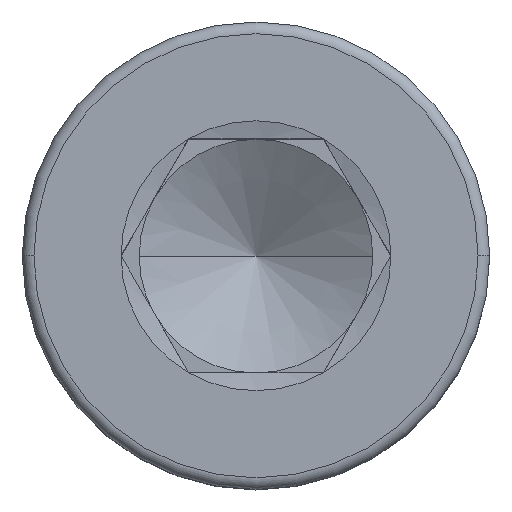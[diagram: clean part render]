
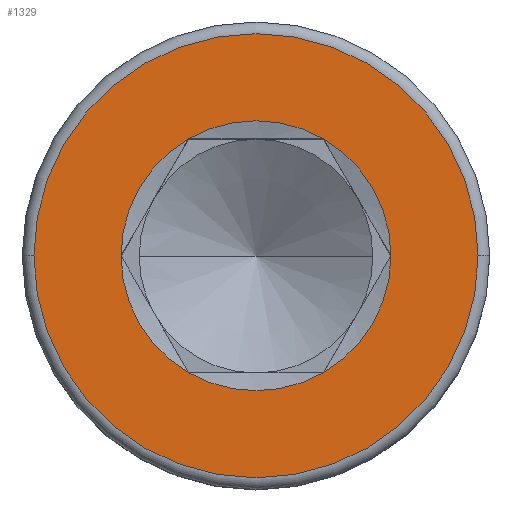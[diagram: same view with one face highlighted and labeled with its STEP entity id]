
A CAD part, top view. The second image highlights one B-rep face of the part: STEP entity #1329.
In plain terms, the highlighted planar face has unit normal (0, 0, 1).
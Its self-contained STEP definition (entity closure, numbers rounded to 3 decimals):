
#39 = DIRECTION ( 'NONE',  ( 1., 0., 0. ) ) ;
#45 = CARTESIAN_POINT ( 'NONE',  ( 0., 0., 6. ) ) ;
#61 = FACE_OUTER_BOUND ( 'NONE', #935, .T. ) ;
#62 = EDGE_LOOP ( 'NONE', ( #1179, #143, #1600, #802, #292, #662 ) ) ;
#66 = CARTESIAN_POINT ( 'NONE',  ( 0., 0., 6. ) ) ;
#97 = EDGE_CURVE ( 'NONE', #932, #526, #101, .T. ) ;
#101 = CIRCLE ( 'NONE', #997, 2.887 ) ;
#106 = CIRCLE ( 'NONE', #837, 2.887 ) ;
#117 = DIRECTION ( 'NONE',  ( 0., 0., 1. ) ) ;
#118 = EDGE_CURVE ( 'NONE', #164, #1504, #190, .T. ) ;
#143 = ORIENTED_EDGE ( 'NONE', *, *, #118, .F. ) ;
#156 = VERTEX_POINT ( 'NONE', #874 ) ;
#164 = VERTEX_POINT ( 'NONE', #1286 ) ;
#190 = CIRCLE ( 'NONE', #1190, 2.887 ) ;
#243 = CARTESIAN_POINT ( 'NONE',  ( 0., 0., 6. ) ) ;
#258 = VERTEX_POINT ( 'NONE', #264 ) ;
#264 = CARTESIAN_POINT ( 'NONE',  ( -2.887, 0., 6. ) ) ;
#277 = AXIS2_PLACEMENT_3D ( 'NONE', #45, #1095, #736 ) ;
#292 = ORIENTED_EDGE ( 'NONE', *, *, #747, .F. ) ;
#316 = ORIENTED_EDGE ( 'NONE', *, *, #905, .T. ) ;
#322 = CIRCLE ( 'NONE', #409, 2.887 ) ;
#409 = AXIS2_PLACEMENT_3D ( 'NONE', #649, #1431, #1137 ) ;
#413 = CARTESIAN_POINT ( 'NONE',  ( 2.887, 0., 6. ) ) ;
#489 = CARTESIAN_POINT ( 'NONE',  ( 0., 0., 6. ) ) ;
#494 = CIRCLE ( 'NONE', #844, 4.75 ) ;
#502 = EDGE_CURVE ( 'NONE', #1504, #932, #1336, .T. ) ;
#512 = CARTESIAN_POINT ( 'NONE',  ( 0., 0., 6. ) ) ;
#526 = VERTEX_POINT ( 'NONE', #590 ) ;
#590 = CARTESIAN_POINT ( 'NONE',  ( -1.443, 2.5, 6. ) ) ;
#602 = CIRCLE ( 'NONE', #1551, 2.887 ) ;
#628 = CARTESIAN_POINT ( 'NONE',  ( 0., 0., 6. ) ) ;
#649 = CARTESIAN_POINT ( 'NONE',  ( 0., 0., 6. ) ) ;
#662 = ORIENTED_EDGE ( 'NONE', *, *, #97, .F. ) ;
#689 = PLANE ( 'NONE',  #1283 ) ;
#695 = EDGE_CURVE ( 'NONE', #1155, #164, #322, .T. ) ;
#717 = CARTESIAN_POINT ( 'NONE',  ( 0., 0., 6. ) ) ;
#736 = DIRECTION ( 'NONE',  ( 1., 0., 0. ) ) ;
#747 = EDGE_CURVE ( 'NONE', #526, #258, #106, .T. ) ;
#773 = DIRECTION ( 'NONE',  ( 1., 0., 0. ) ) ;
#802 = ORIENTED_EDGE ( 'NONE', *, *, #1158, .F. ) ;
#836 = DIRECTION ( 'NONE',  ( 0., 0., 1. ) ) ;
#837 = AXIS2_PLACEMENT_3D ( 'NONE', #628, #117, #39 ) ;
#844 = AXIS2_PLACEMENT_3D ( 'NONE', #66, #1245, #1111 ) ;
#874 = CARTESIAN_POINT ( 'NONE',  ( 4.75, 0., 6. ) ) ;
#891 = DIRECTION ( 'NONE',  ( 1., 0., 0. ) ) ;
#905 = EDGE_CURVE ( 'NONE', #156, #1373, #1689, .T. ) ;
#914 = EDGE_CURVE ( 'NONE', #1373, #156, #494, .T. ) ;
#931 = CARTESIAN_POINT ( 'NONE',  ( -1.443, -2.5, 6. ) ) ;
#932 = VERTEX_POINT ( 'NONE', #1368 ) ;
#935 = EDGE_LOOP ( 'NONE', ( #316, #1457 ) ) ;
#977 = AXIS2_PLACEMENT_3D ( 'NONE', #717, #836, #1493 ) ;
#997 = AXIS2_PLACEMENT_3D ( 'NONE', #489, #1678, #773 ) ;
#1095 = DIRECTION ( 'NONE',  ( 0., 0., 1. ) ) ;
#1105 = CARTESIAN_POINT ( 'NONE',  ( 0., 0., 6. ) ) ;
#1111 = DIRECTION ( 'NONE',  ( 1., 0., 0. ) ) ;
#1137 = DIRECTION ( 'NONE',  ( 1., 0., 0. ) ) ;
#1155 = VERTEX_POINT ( 'NONE', #931 ) ;
#1158 = EDGE_CURVE ( 'NONE', #258, #1155, #602, .T. ) ;
#1179 = ORIENTED_EDGE ( 'NONE', *, *, #502, .F. ) ;
#1190 = AXIS2_PLACEMENT_3D ( 'NONE', #243, #1550, #1557 ) ;
#1245 = DIRECTION ( 'NONE',  ( 0., 0., 1. ) ) ;
#1283 = AXIS2_PLACEMENT_3D ( 'NONE', #1105, #1584, #1614 ) ;
#1286 = CARTESIAN_POINT ( 'NONE',  ( 1.443, -2.5, 6. ) ) ;
#1329 = ADVANCED_FACE ( 'NONE', ( #61, #1351 ), #689, .T. ) ;
#1336 = CIRCLE ( 'NONE', #977, 2.887 ) ;
#1351 = FACE_BOUND ( 'NONE', #62, .T. ) ;
#1368 = CARTESIAN_POINT ( 'NONE',  ( 1.443, 2.5, 6. ) ) ;
#1373 = VERTEX_POINT ( 'NONE', #1531 ) ;
#1431 = DIRECTION ( 'NONE',  ( 0., 0., 1. ) ) ;
#1457 = ORIENTED_EDGE ( 'NONE', *, *, #914, .T. ) ;
#1493 = DIRECTION ( 'NONE',  ( 1., 0., 0. ) ) ;
#1504 = VERTEX_POINT ( 'NONE', #413 ) ;
#1531 = CARTESIAN_POINT ( 'NONE',  ( -4.75, 0., 6. ) ) ;
#1550 = DIRECTION ( 'NONE',  ( 0., 0., 1. ) ) ;
#1551 = AXIS2_PLACEMENT_3D ( 'NONE', #512, #1566, #891 ) ;
#1557 = DIRECTION ( 'NONE',  ( 1., 0., 0. ) ) ;
#1566 = DIRECTION ( 'NONE',  ( 0., 0., 1. ) ) ;
#1584 = DIRECTION ( 'NONE',  ( 0., 0., 1. ) ) ;
#1600 = ORIENTED_EDGE ( 'NONE', *, *, #695, .F. ) ;
#1614 = DIRECTION ( 'NONE',  ( 1., 0., 0. ) ) ;
#1678 = DIRECTION ( 'NONE',  ( 0., 0., 1. ) ) ;
#1689 = CIRCLE ( 'NONE', #277, 4.75 ) ;
